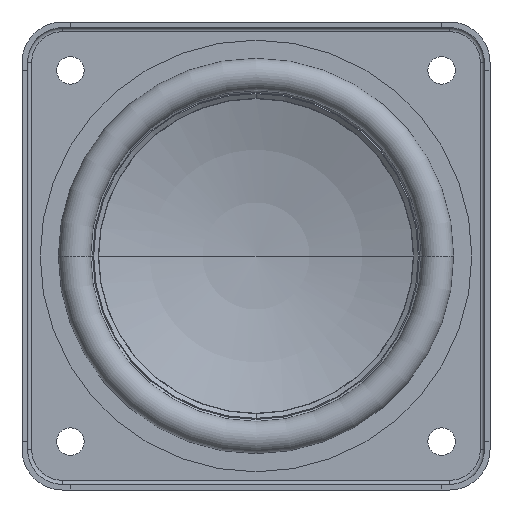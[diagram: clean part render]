
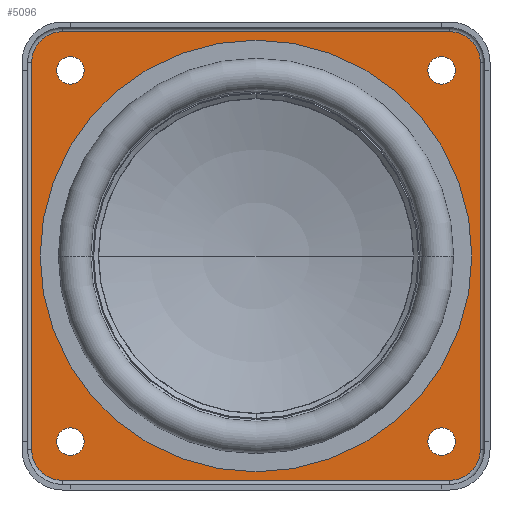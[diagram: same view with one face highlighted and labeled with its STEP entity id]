
A CAD part, front view. The second image highlights one B-rep face of the part: STEP entity #5096.
In plain terms, the highlighted planar face has unit normal (0, -1, 0).
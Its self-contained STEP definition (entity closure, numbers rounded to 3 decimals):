
#879=DIRECTION('',(0.,0.,1.));
#880=VECTOR('',#879,48.);
#881=CARTESIAN_POINT('',(27.8,0.,-24.));
#882=LINE('',#881,#880);
#893=CARTESIAN_POINT('',(-24.,0.,24.));
#894=DIRECTION('',(0.,1.,0.));
#895=DIRECTION('',(-1.,0.,0.));
#896=AXIS2_PLACEMENT_3D('',#893,#894,#895);
#901=CARTESIAN_POINT('',(24.,0.,24.));
#902=DIRECTION('',(0.,1.,0.));
#903=DIRECTION('',(0.,0.,1.));
#904=AXIS2_PLACEMENT_3D('',#901,#902,#903);
#909=CARTESIAN_POINT('',(24.,0.,-24.));
#910=DIRECTION('',(0.,1.,0.));
#911=DIRECTION('',(1.,0.,0.));
#912=AXIS2_PLACEMENT_3D('',#909,#910,#911);
#917=CARTESIAN_POINT('',(-24.,0.,-24.));
#918=DIRECTION('',(0.,1.,0.));
#919=DIRECTION('',(0.,0.,-1.));
#920=AXIS2_PLACEMENT_3D('',#917,#918,#919);
#925=CARTESIAN_POINT('',(0.,0.,0.));
#926=DIRECTION('',(0.,-1.,0.));
#927=DIRECTION('',(-1.,0.,0.));
#928=AXIS2_PLACEMENT_3D('',#925,#926,#927);
#933=CARTESIAN_POINT('',(0.,0.,0.));
#934=DIRECTION('',(0.,-1.,0.));
#935=DIRECTION('',(1.,0.,0.));
#936=AXIS2_PLACEMENT_3D('',#933,#934,#935);
#941=CARTESIAN_POINT('',(-23.,0.,23.));
#942=DIRECTION('',(0.,-1.,0.));
#943=DIRECTION('',(1.,0.,0.));
#944=AXIS2_PLACEMENT_3D('',#941,#942,#943);
#949=CARTESIAN_POINT('',(-23.,0.,23.));
#950=DIRECTION('',(0.,-1.,0.));
#951=DIRECTION('',(-1.,0.,0.));
#952=AXIS2_PLACEMENT_3D('',#949,#950,#951);
#957=CARTESIAN_POINT('',(23.,0.,23.));
#958=DIRECTION('',(0.,-1.,0.));
#959=DIRECTION('',(1.,0.,0.));
#960=AXIS2_PLACEMENT_3D('',#957,#958,#959);
#965=CARTESIAN_POINT('',(23.,0.,23.));
#966=DIRECTION('',(0.,-1.,0.));
#967=DIRECTION('',(-1.,0.,0.));
#968=AXIS2_PLACEMENT_3D('',#965,#966,#967);
#973=CARTESIAN_POINT('',(23.,0.,-23.));
#974=DIRECTION('',(0.,-1.,0.));
#975=DIRECTION('',(1.,0.,0.));
#976=AXIS2_PLACEMENT_3D('',#973,#974,#975);
#981=CARTESIAN_POINT('',(23.,0.,-23.));
#982=DIRECTION('',(0.,-1.,0.));
#983=DIRECTION('',(-1.,0.,0.));
#984=AXIS2_PLACEMENT_3D('',#981,#982,#983);
#989=CARTESIAN_POINT('',(-23.,0.,-23.));
#990=DIRECTION('',(0.,-1.,0.));
#991=DIRECTION('',(1.,0.,0.));
#992=AXIS2_PLACEMENT_3D('',#989,#990,#991);
#997=CARTESIAN_POINT('',(-23.,0.,-23.));
#998=DIRECTION('',(0.,-1.,0.));
#999=DIRECTION('',(-1.,0.,0.));
#1000=AXIS2_PLACEMENT_3D('',#997,#998,#999);
#1005=DIRECTION('',(0.,0.,-1.));
#1006=VECTOR('',#1005,48.);
#1007=CARTESIAN_POINT('',(-27.8,0.,24.));
#1008=LINE('',#1007,#1006);
#1043=DIRECTION('',(1.,0.,0.));
#1044=VECTOR('',#1043,48.);
#1045=CARTESIAN_POINT('',(-24.,0.,-27.8));
#1046=LINE('',#1045,#1044);
#1105=DIRECTION('',(-1.,0.,0.));
#1106=VECTOR('',#1105,48.);
#1107=CARTESIAN_POINT('',(24.,0.,27.8));
#1108=LINE('',#1107,#1106);
#1135=CARTESIAN_POINT('',(0.,0.,0.));
#1136=DIRECTION('',(0.,1.,0.));
#1137=DIRECTION('',(1.,0.,0.));
#1138=AXIS2_PLACEMENT_3D('',#1135,#1136,#1137);
#1195=CARTESIAN_POINT('',(0.,0.,0.));
#1196=DIRECTION('',(0.,1.,0.));
#1197=DIRECTION('',(-1.,0.,0.));
#1198=AXIS2_PLACEMENT_3D('',#1195,#1196,#1197);
#3717=CARTESIAN_POINT('',(25.597,0.,0.));
#3718=VERTEX_POINT('',#3717);
#3719=CARTESIAN_POINT('',(-25.597,0.,0.));
#3720=CARTESIAN_POINT('',(25.596,0.,-0.145));
#3721=VERTEX_POINT('',#3719);
#3722=VERTEX_POINT('',#3720);
#3725=CARTESIAN_POINT('',(-25.596,0.,0.145));
#3726=VERTEX_POINT('',#3725);
#3809=CARTESIAN_POINT('',(-27.8,0.,24.));
#3810=CARTESIAN_POINT('',(-27.8,0.,-24.));
#3811=VERTEX_POINT('',#3809);
#3812=VERTEX_POINT('',#3810);
#3813=CARTESIAN_POINT('',(-24.,0.,27.8));
#3814=VERTEX_POINT('',#3813);
#3815=CARTESIAN_POINT('',(24.,0.,27.8));
#3816=VERTEX_POINT('',#3815);
#3817=CARTESIAN_POINT('',(27.8,0.,24.));
#3818=VERTEX_POINT('',#3817);
#3819=CARTESIAN_POINT('',(27.8,0.,-24.));
#3820=VERTEX_POINT('',#3819);
#3821=CARTESIAN_POINT('',(24.,0.,-27.8));
#3822=VERTEX_POINT('',#3821);
#3823=CARTESIAN_POINT('',(-24.,0.,-27.8));
#3824=VERTEX_POINT('',#3823);
#3825=CARTESIAN_POINT('',(-21.3,0.,23.));
#3826=CARTESIAN_POINT('',(-24.7,0.,23.));
#3827=VERTEX_POINT('',#3825);
#3828=VERTEX_POINT('',#3826);
#3829=CARTESIAN_POINT('',(24.7,0.,23.));
#3830=CARTESIAN_POINT('',(21.3,0.,23.));
#3831=VERTEX_POINT('',#3829);
#3832=VERTEX_POINT('',#3830);
#3833=CARTESIAN_POINT('',(24.7,0.,-23.));
#3834=CARTESIAN_POINT('',(21.3,0.,-23.));
#3835=VERTEX_POINT('',#3833);
#3836=VERTEX_POINT('',#3834);
#3837=CARTESIAN_POINT('',(-21.3,0.,-23.));
#3838=CARTESIAN_POINT('',(-24.7,0.,-23.));
#3839=VERTEX_POINT('',#3837);
#3840=VERTEX_POINT('',#3838);
#5041=CARTESIAN_POINT('',(0.,0.,0.));
#5042=DIRECTION('',(0.,-1.,0.));
#5043=DIRECTION('',(-1.,0.,0.));
#5044=AXIS2_PLACEMENT_3D('',#5041,#5042,#5043);
#5045=PLANE('',#5044);
#5047=ORIENTED_EDGE('',*,*,#5046,.F.);
#5049=ORIENTED_EDGE('',*,*,#5048,.T.);
#5051=ORIENTED_EDGE('',*,*,#5050,.F.);
#5052=ORIENTED_EDGE('',*,*,#5005,.T.);
#5053=ORIENTED_EDGE('',*,*,#5025,.F.);
#5055=ORIENTED_EDGE('',*,*,#5054,.T.);
#5057=ORIENTED_EDGE('',*,*,#5056,.F.);
#5059=ORIENTED_EDGE('',*,*,#5058,.T.);
#5060=EDGE_LOOP('',(#5047,#5049,#5051,#5052,#5053,#5055,#5057,#5059));
#5061=FACE_OUTER_BOUND('',#5060,.F.);
#5063=ORIENTED_EDGE('',*,*,#5062,.T.);
#5065=ORIENTED_EDGE('',*,*,#5064,.F.);
#5067=ORIENTED_EDGE('',*,*,#5066,.T.);
#5069=ORIENTED_EDGE('',*,*,#5068,.F.);
#5070=EDGE_LOOP('',(#5063,#5065,#5067,#5069));
#5071=FACE_BOUND('',#5070,.F.);
#5073=ORIENTED_EDGE('',*,*,#5072,.T.);
#5075=ORIENTED_EDGE('',*,*,#5074,.T.);
#5076=EDGE_LOOP('',(#5073,#5075));
#5077=FACE_BOUND('',#5076,.F.);
#5079=ORIENTED_EDGE('',*,*,#5078,.T.);
#5081=ORIENTED_EDGE('',*,*,#5080,.T.);
#5082=EDGE_LOOP('',(#5079,#5081));
#5083=FACE_BOUND('',#5082,.F.);
#5085=ORIENTED_EDGE('',*,*,#5084,.T.);
#5087=ORIENTED_EDGE('',*,*,#5086,.T.);
#5088=EDGE_LOOP('',(#5085,#5087));
#5089=FACE_BOUND('',#5088,.F.);
#5091=ORIENTED_EDGE('',*,*,#5090,.T.);
#5093=ORIENTED_EDGE('',*,*,#5092,.T.);
#5094=EDGE_LOOP('',(#5091,#5093));
#5095=FACE_BOUND('',#5094,.F.);
#5096=ADVANCED_FACE('',(#5061,#5071,#5077,#5083,#5089,#5095),#5045,.T.);
#897=CIRCLE('',#896,3.8);
#905=CIRCLE('',#904,3.8);
#913=CIRCLE('',#912,3.8);
#921=CIRCLE('',#920,3.8);
#929=CIRCLE('',#928,25.597);
#937=CIRCLE('',#936,25.597);
#945=CIRCLE('',#944,1.7);
#953=CIRCLE('',#952,1.7);
#961=CIRCLE('',#960,1.7);
#969=CIRCLE('',#968,1.7);
#977=CIRCLE('',#976,1.7);
#985=CIRCLE('',#984,1.7);
#993=CIRCLE('',#992,1.7);
#1001=CIRCLE('',#1000,1.7);
#1139=CIRCLE('',#1138,25.597);
#1199=CIRCLE('',#1198,25.597);
#5005=EDGE_CURVE('',#3816,#3818,#905,.T.);
#5025=EDGE_CURVE('',#3820,#3818,#882,.T.);
#5046=EDGE_CURVE('',#3811,#3812,#1008,.T.);
#5048=EDGE_CURVE('',#3811,#3814,#897,.T.);
#5050=EDGE_CURVE('',#3816,#3814,#1108,.T.);
#5054=EDGE_CURVE('',#3820,#3822,#913,.T.);
#5056=EDGE_CURVE('',#3824,#3822,#1046,.T.);
#5058=EDGE_CURVE('',#3824,#3812,#921,.T.);
#5062=EDGE_CURVE('',#3721,#3722,#929,.T.);
#5064=EDGE_CURVE('',#3718,#3722,#1139,.T.);
#5066=EDGE_CURVE('',#3718,#3726,#937,.T.);
#5068=EDGE_CURVE('',#3721,#3726,#1199,.T.);
#5072=EDGE_CURVE('',#3827,#3828,#945,.T.);
#5074=EDGE_CURVE('',#3828,#3827,#953,.T.);
#5078=EDGE_CURVE('',#3831,#3832,#961,.T.);
#5080=EDGE_CURVE('',#3832,#3831,#969,.T.);
#5084=EDGE_CURVE('',#3835,#3836,#977,.T.);
#5086=EDGE_CURVE('',#3836,#3835,#985,.T.);
#5090=EDGE_CURVE('',#3839,#3840,#993,.T.);
#5092=EDGE_CURVE('',#3840,#3839,#1001,.T.);
